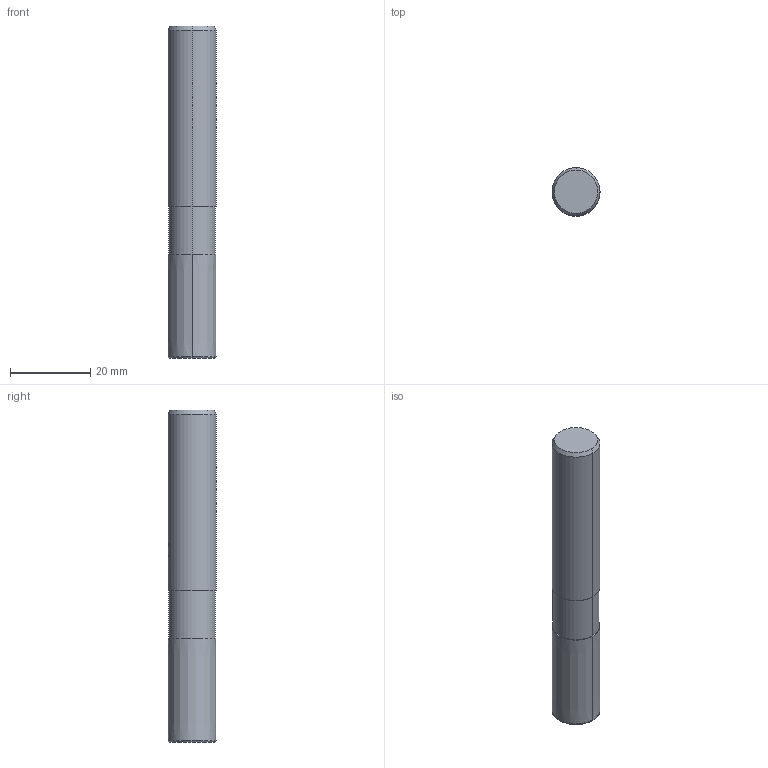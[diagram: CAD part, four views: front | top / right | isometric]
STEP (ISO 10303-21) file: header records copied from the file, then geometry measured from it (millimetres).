
FILE_DESCRIPTION(('no description'),'unknown implementation level');
FILE_NAME('solidK0uKvl0dw7ppEDiUXJ4py5EZFhU_1.STP',' ',('CIMSOURCE GmbH'),('CADClick - KiM GmbH - www.kimweb.de'),'unknown preprocess','ACIS','unknown authorization');
FILE_SCHEMA(('automotive_design'));
Length unit declared in the file: millimetre
Products named in the file (2): 1; 2
Bounding box: 12 x 12 x 83 mm (x, y, z)
Volume: 9308 mm3; surface area: 3550.6 mm2
Topology: 2 solids, 2 shells, 29 faces, 71 edges, 46 vertices
Faces by surface type: plane 12, cylinder 11, cone 4, torus 2
Entity records: 1997 total; most frequent: CARTESIAN_POINT 431, DIRECTION 152, STYLED_ITEM 148, PRESENTATION_STYLE_ASSIGNMENT 148, COLOUR_RGB 148, ORIENTED_EDGE 142, EDGE_CURVE 71, CURVE_STYLE 71
